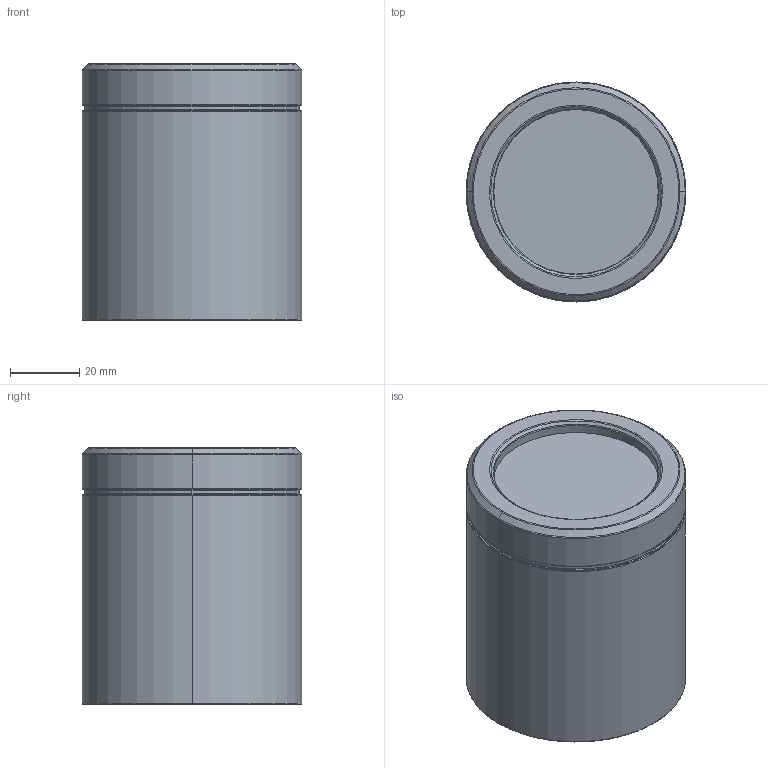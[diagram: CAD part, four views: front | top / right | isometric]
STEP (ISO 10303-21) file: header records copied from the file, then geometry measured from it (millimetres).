
FILE_DESCRIPTION (( 'STEP AP214' ), '1' );
FILE_NAME ('HL-74-VC.STEP', '2021-03-08T02:44:51', ( '' ), ( '' ), 'SwSTEP 2.0', 'SolidWorks 2018', '' );
FILE_SCHEMA (( 'AUTOMOTIVE_DESIGN' ));
Length unit declared in the file: millimetre
Products named in the file (1): HL-74-VC
Bounding box: 63.4 x 63.4 x 74 mm (x, y, z)
Volume: 42659 mm3; surface area: 34015.4 mm2
Topology: 1 solids, 1 shells, 66 faces, 148 edges, 90 vertices
Faces by surface type: cylinder 22, bspline 18, cone 16, plane 10
Entity records: 3486 total; most frequent: CARTESIAN_POINT 1293, DIRECTION 318, ORIENTED_EDGE 296, EDGE_CURVE 148, AXIS2_PLACEMENT_3D 139, CIRCLE 90, VERTEX_POINT 90, EDGE_LOOP 72
